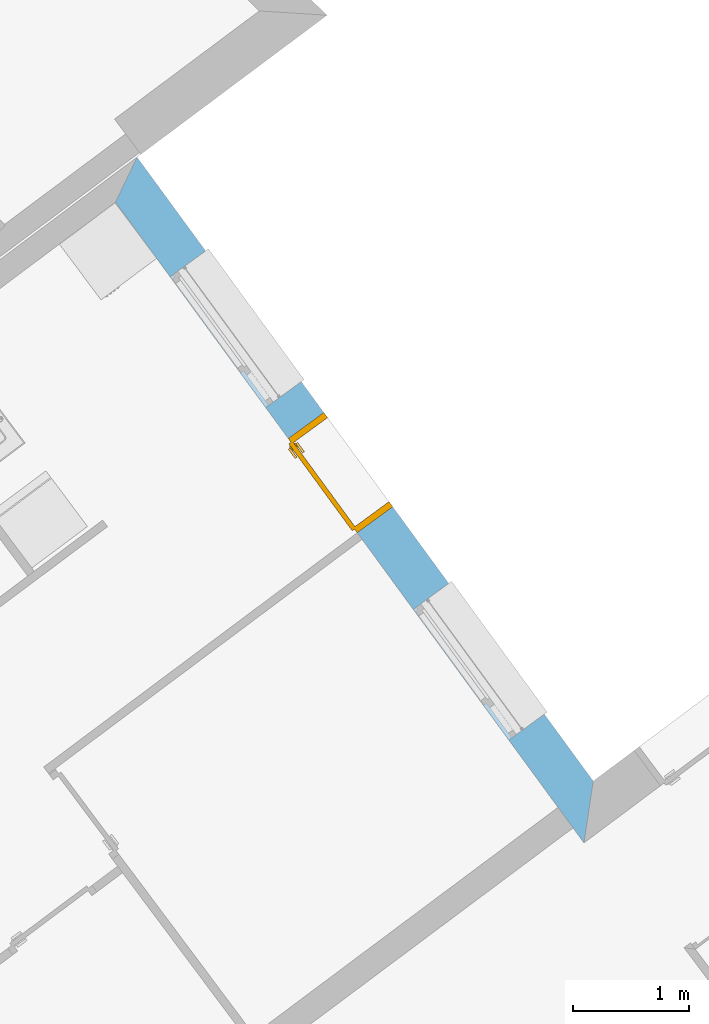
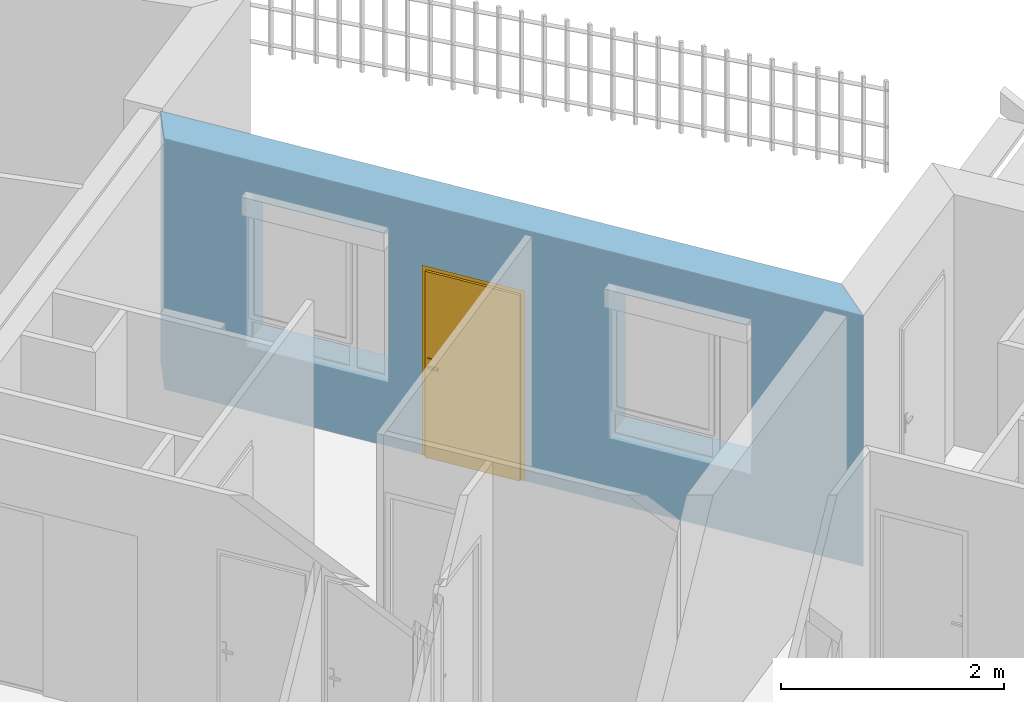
# One storey, part 13 of 195: 1 door, 3 openings, plus 1 element that does not belong to this part.
"""IFC2X3 building model written with IfcOpenShell, lengths in metres."""

import ifcopenshell
import ifcopenshell.guid

model = None  # the IFC model being written
_history = None  # IfcOwnerHistory: only IFC2X3 demands one
_inside = {}  # id of a spatial element -> (the spatial element, [elements in it])
_under = {}  # id of a project, library or spatial element -> (it, [spatial elements below it])
_declared = {}  # id of a project -> (the project, [libraries it declares])
_typed = {}  # id of a type object -> (the type object, [elements of that type])
_made_of = {}  # id of a material, layer set ... -> (it, [elements and type objects made of it])


def new_model(schema):
    """Start an empty IFC model of exactly this schema.

    Asked for "IFC4X3", IfcOpenShell would pick the latest addendum, in which some entities
    have other attributes; the version numbers below select the first issue.
    IFC2X3 requires an IfcOwnerHistory on every rooted entity: one is made here for all.
    """
    global model, _history
    if schema == "IFC4X3":
        model = ifcopenshell.file(schema_version=(4, 3, 0, 0))
    else:
        model = ifcopenshell.file(schema=schema)
    _inside.clear()
    _under.clear()
    _declared.clear()
    _typed.clear()
    _made_of.clear()
    _history = None
    if model.schema == "IFC2X3":
        org = make("IfcOrganization", Name="unknown")
        user = make(
            "IfcPersonAndOrganization",
            ThePerson=make("IfcPerson", FamilyName="unknown"),
            TheOrganization=org,
        )
        app = make(
            "IfcApplication",
            ApplicationDeveloper=org,
            Version="unknown",
            ApplicationFullName="unknown",
            ApplicationIdentifier="unknown",
        )
        _history = make(
            "IfcOwnerHistory",
            OwningUser=user,
            OwningApplication=app,
            ChangeAction="ADDED",
            CreationDate=0,
        )
    return model


def make(cls, **values):
    """One entity of the class cls with the attributes given. An attribute that is None is left unset."""
    return model.create_entity(
        cls, **{name: value for name, value in values.items() if value is not None}
    )


def entity(cls, *values):
    """Any entity or typed value of the class cls, its attributes in the order of the schema. None: left unset."""
    e = model.create_entity(cls)
    for i, value in enumerate(values):
        if value is not None:
            e[i] = value
    return e


def rooted(cls, **values):
    """An entity with a GlobalId (a new one), such as an element, a storey or a relation."""
    return make(cls, GlobalId=ifcopenshell.guid.new(), OwnerHistory=_history, **values)


def si_unit(unit_type, name, prefix=None):
    """IfcSIUnit, for example si_unit("LENGTHUNIT", "METRE", prefix="MILLI")."""
    return make("IfcSIUnit", UnitType=unit_type, Prefix=prefix, Name=name)


def converted_unit(unit_type, name, factor, base, dimensions=None, offset=None):
    """IfcConversionBasedUnit, such as the inch: factor (a typed value) times the base unit."""
    return make(
        "IfcConversionBasedUnit"
        if offset is None
        else "IfcConversionBasedUnitWithOffset",
        ConversionOffset=offset,
        Dimensions=None
        if dimensions is None
        else entity("IfcDimensionalExponents", *dimensions),
        UnitType=unit_type,
        Name=name,
        ConversionFactor=make(
            "IfcMeasureWithUnit", ValueComponent=factor, UnitComponent=base
        ),
    )


def derived_unit(unit_type, elements):
    """IfcDerivedUnit: a product of units, each with its exponent."""
    return make(
        "IfcDerivedUnit",
        Elements=[
            make("IfcDerivedUnitElement", Unit=unit, Exponent=power)
            for unit, power in elements
        ],
        UnitType=unit_type,
    )


def money_unit(currency):
    """IfcMonetaryUnit."""
    return make("IfcMonetaryUnit", Currency=currency)


def assignment(units):
    """IfcUnitAssignment: the units of a project."""
    return None if units is None else make("IfcUnitAssignment", Units=units)


def point(xyz):
    """IfcCartesianPoint."""
    return None if xyz is None else make("IfcCartesianPoint", Coordinates=xyz)


def direction(xyz):
    """IfcDirection."""
    return None if xyz is None else make("IfcDirection", DirectionRatios=xyz)


def frame(location, z_axis=None, x_axis=None):
    """IfcAxis2Placement3D, a coordinate frame: its origin and axes. An axis left out is left unset."""
    return make(
        "IfcAxis2Placement3D",
        Location=point(location),
        Axis=direction(z_axis),
        RefDirection=direction(x_axis),
    )


def frame_2d(location, x_axis=None):
    """IfcAxis2Placement2D, a coordinate frame in the plane: its origin and x axis."""
    return make(
        "IfcAxis2Placement2D", Location=point(location), RefDirection=direction(x_axis)
    )


def origin_with_axes():
    """The frame at (0, 0, 0) with the z axis (0, 0, 1) and the x axis (1, 0, 0) written out."""
    return frame((0.0, 0.0, 0.0), z_axis=(0.0, 0.0, 1.0), x_axis=(1.0, 0.0, 0.0))


def origin_2d_with_axis():
    """The frame at (0, 0) in the plane with the x axis (1, 0) written out."""
    return frame_2d((0.0, 0.0), x_axis=(1.0, 0.0))


def place(relative_to, where):
    """IfcLocalPlacement: puts the frame where relative to a parent placement (None: the world)."""
    return make(
        "IfcLocalPlacement", PlacementRelTo=relative_to, RelativePlacement=where
    )


def context(
    kind, dimensions, precision=None, world=None, true_north=None, identifier=None
):
    """IfcGeometricRepresentationContext, for example the 3D "Model" context."""
    return make(
        "IfcGeometricRepresentationContext",
        ContextIdentifier=identifier,
        ContextType=kind,
        CoordinateSpaceDimension=dimensions,
        Precision=precision,
        WorldCoordinateSystem=world,
        TrueNorth=true_north,
    )


def subcontext(parent, identifier, kind, view, scale=None):
    """IfcGeometricRepresentationSubContext, for example "Body" below "Model"."""
    return make(
        "IfcGeometricRepresentationSubContext",
        ContextIdentifier=identifier,
        ContextType=kind,
        ParentContext=parent,
        TargetScale=scale,
        TargetView=view,
    )


def project(units=None, contexts=None):
    """IfcProject with its units and contexts."""
    return rooted(
        "IfcProject",
        Name="project",
        RepresentationContexts=contexts,
        UnitsInContext=assignment(units),
    )


def spatial(cls, under=None, at=None, **own):
    """A site, building, storey or space (cls), placed at a placement, below another one or the project."""
    s = rooted(cls, ObjectPlacement=at, **own)
    if under is not None:
        _under.setdefault(under.id(), (under, []))[1].append(s)
    return s


def polyline(points):
    """IfcPolyline through the points."""
    return make("IfcPolyline", Points=[point(p) for p in points])


def profile(cls, at=None, kind="AREA", **sizes):
    """A parametric profile (cls). Its sizes go by their IFC names, for example OverallWidth=200.0."""
    return make(cls, ProfileType=kind, Position=at, **sizes)


def rectangle(**sizes):
    """IfcRectangleProfileDef."""
    return profile("IfcRectangleProfileDef", **sizes)


def outline(outer, holes=None, kind="AREA"):
    """IfcArbitraryClosedProfileDef: a profile drawn as a closed curve; with holes, ...WithVoids."""
    if holes is None:
        return make("IfcArbitraryClosedProfileDef", ProfileType=kind, OuterCurve=outer)
    return make(
        "IfcArbitraryProfileDefWithVoids",
        ProfileType=kind,
        OuterCurve=outer,
        InnerCurves=holes,
    )


def extrude(swept, where, along, depth):
    """IfcExtrudedAreaSolid: the profile swept, set in the frame where, extruded along a direction by depth."""
    return make(
        "IfcExtrudedAreaSolid",
        SweptArea=swept,
        Position=where,
        ExtrudedDirection=direction(along),
        Depth=depth,
    )


def faces_of(points, faces, orient=None, outer=None):
    """IfcFace entities. A face is a list of loops; a loop is a list of indices into points, from 0.

    orient and outer hold one flag for each loop. By default every Orientation is true, the
    first loop of a face is its IfcFaceOuterBound and the others are IfcFaceBound.
    """
    made = []
    for i, loops in enumerate(faces):
        bounds = []
        for j, loop in enumerate(loops):
            is_outer = j == 0 if outer is None else outer[i][j]
            bounds.append(
                make(
                    "IfcFaceOuterBound" if is_outer else "IfcFaceBound",
                    Bound=make("IfcPolyLoop", Polygon=[points[k] for k in loop]),
                    Orientation=True if orient is None else orient[i][j],
                )
            )
        made.append(make("IfcFace", Bounds=bounds))
    return made


def faceted_brep(points, faces, orient=None, outer=None, voids=None):
    """IfcFacetedBrep: a solid bounded by flat faces; with voids (closed shells), ...WithVoids."""
    shared = [point(p) for p in points]
    hull = make("IfcClosedShell", CfsFaces=faces_of(shared, faces, orient, outer))
    if voids is None:
        return make("IfcFacetedBrep", Outer=hull)
    return make(
        "IfcFacetedBrepWithVoids",
        Outer=hull,
        Voids=[
            make(cls, CfsFaces=faces_of(shared, fs, o, b)) for cls, fs, o, b in voids
        ],
    )


def shape(context_of_items, identifier, shape_type, items):
    """IfcShapeRepresentation: the items that make up one representation, for example the "Body"."""
    return make(
        "IfcShapeRepresentation",
        ContextOfItems=context_of_items,
        RepresentationIdentifier=identifier,
        RepresentationType=shape_type,
        Items=items,
    )


def source(mapping_origin, context_of_items, identifier, shape_type, items):
    """IfcRepresentationMap: a shape defined once, which mapped items show again and again."""
    return make(
        "IfcRepresentationMap",
        MappingOrigin=mapping_origin,
        MappedRepresentation=shape(context_of_items, identifier, shape_type, items),
    )


def transform(
    local_origin,
    x_axis=None,
    y_axis=None,
    z_axis=None,
    scale=None,
    scale2=None,
    scale3=None,
    uniform=True,
):
    """IfcCartesianTransformationOperator3D, or its non-uniform kind. x_axis, y_axis, z_axis: its Axis1, 2, 3."""
    if uniform:
        return make(
            "IfcCartesianTransformationOperator3D",
            Axis1=direction(x_axis),
            Axis2=direction(y_axis),
            LocalOrigin=point(local_origin),
            Scale=scale,
            Axis3=direction(z_axis),
        )
    return make(
        "IfcCartesianTransformationOperator3DnonUniform",
        Axis1=direction(x_axis),
        Axis2=direction(y_axis),
        LocalOrigin=point(local_origin),
        Scale=scale,
        Axis3=direction(z_axis),
        Scale2=scale2,
        Scale3=scale3,
    )


def mapped(mapping_source, mapping_target):
    """IfcMappedItem: shows the shape of a source again, moved by a transform."""
    return make(
        "IfcMappedItem", MappingSource=mapping_source, MappingTarget=mapping_target
    )


def material(Name=None, Category=None):
    """IfcMaterial."""
    return make("IfcMaterial", Name=Name, Category=Category)


def layer(
    of_material, thickness, ventilated=None, Name=None, Category=None, Priority=None
):
    """IfcMaterialLayer: one layer of a wall or slab, of a material (None: an air gap)."""
    return make(
        "IfcMaterialLayer",
        Material=of_material,
        LayerThickness=thickness,
        IsVentilated=ventilated,
        Name=Name,
        Category=Category,
        Priority=Priority,
    )


def layer_set(layers, Name=None):
    """IfcMaterialLayerSet."""
    return make("IfcMaterialLayerSet", MaterialLayers=layers, LayerSetName=Name)


def layer_usage(for_layer_set, set_direction, sense, offset, extent=None):
    """IfcMaterialLayerSetUsage: how a layer set lies in its element."""
    return make(
        "IfcMaterialLayerSetUsage",
        ForLayerSet=for_layer_set,
        LayerSetDirection=set_direction,
        DirectionSense=sense,
        OffsetFromReferenceLine=offset,
        ReferenceExtent=extent,
    )


def made_of(thing, what):
    """Note that an element or type object is made of a material, layer set ...; save() writes the relation."""
    if what is not None:
        _made_of.setdefault(what.id(), (what, []))[1].append(thing)
    return thing


def type_object(cls, material=None, **own):
    """A type object (cls), such as IfcWallType, which elements share."""
    return made_of(rooted(cls, **own), material)


def element(
    cls,
    number,
    at=None,
    inside=None,
    cuts=None,
    type_object=None,
    material=None,
    context=None,
    identifier="Body",
    shape_type=None,
    held_by="IfcProductDefinitionShape",
    body=None,
    shapes=None,
    **own,
):
    """One element of the class cls, such as IfcWall. Its Tag is "e" and its number.

    at: its placement. inside: the storey or other place that contains it. cuts: it is an
    opening in that element (IfcRelVoidsElement). A single representation is given by context,
    identifier, shape_type and body (its items); several are given by shapes. held_by: the class
    of the entity that holds the representations. save() writes the other relations.
    """
    e = rooted(cls, Tag="e%d" % number, ObjectPlacement=at, **own)
    if body is not None:
        shapes = [shape(context, identifier, shape_type, body)]
    if shapes is not None:
        e.Representation = make(held_by, Representations=shapes)
    if inside is not None:
        _inside.setdefault(inside.id(), (inside, []))[1].append(e)
    if cuts is not None:
        rooted(
            "IfcRelVoidsElement", RelatingBuildingElement=cuts, RelatedOpeningElement=e
        )
    if type_object is not None:
        _typed.setdefault(type_object.id(), (type_object, []))[1].append(e)
    return made_of(e, material)


def fill(opening, filler):
    """IfcRelFillsElement: the door or window that sits in an opening."""
    return rooted(
        "IfcRelFillsElement",
        RelatingOpeningElement=opening,
        RelatedBuildingElement=filler,
    )


def aggregate(whole, parts):
    """IfcRelAggregates: a whole, such as a stair, and the parts it consists of."""
    return rooted("IfcRelAggregates", RelatingObject=whole, RelatedObjects=parts)


def save(model, path):
    """Write the relations noted so far, then the file.

    IfcRelAggregates (storeys below a building ...), IfcRelContainedInSpatialStructure (elements
    in a storey), IfcRelDefinesByType, IfcRelAssociatesMaterial and IfcRelDeclares: one each for
    every whole, place, type object, material and project.
    """
    for whole, parts in _under.values():
        aggregate(whole, parts)
    for where, things in _inside.values():
        rooted(
            "IfcRelContainedInSpatialStructure",
            RelatedElements=things,
            RelatingStructure=where,
        )
    for kind, things in _typed.values():
        rooted("IfcRelDefinesByType", RelatedObjects=things, RelatingType=kind)
    for what, things in _made_of.values():
        rooted("IfcRelAssociatesMaterial", RelatedObjects=things, RelatingMaterial=what)
    for by, libraries in _declared.values():
        rooted("IfcRelDeclares", RelatingContext=by, RelatedDefinitions=libraries)
    model.write(path)


model = new_model("IFC2X3")

# Units and contexts
model_context = context("Model", 3, precision=1e-05, world=origin_with_axes(), true_north=direction((0.0, 1.0)))
body_context = subcontext(model_context, "Body", "Model", "MODEL_VIEW")
ifc_project = project(units=[si_unit("LENGTHUNIT", "METRE"), si_unit("AREAUNIT", "SQUARE_METRE"), si_unit("VOLUMEUNIT", "CUBIC_METRE"), converted_unit("PLANEANGLEUNIT", "DEGREE", entity("IfcPlaneAngleMeasure", 0.0174532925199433), si_unit("PLANEANGLEUNIT", "RADIAN"), dimensions=[0, 0, 0, 0, 0, 0, 0]), money_unit("CHF"), converted_unit("TIMEUNIT", "Year", entity("IfcTimeMeasure", 31557600.0), si_unit("TIMEUNIT", "SECOND"), dimensions=[0, 0, 1, 0, 0, 0, 0]), si_unit("MASSUNIT", "GRAM", prefix="KILO"), si_unit("THERMODYNAMICTEMPERATUREUNIT", "DEGREE_CELSIUS"), si_unit("LUMINOUSINTENSITYUNIT", "LUMEN"), si_unit("ENERGYUNIT", "JOULE", prefix="MEGA"), derived_unit("THERMALCONDUCTANCEUNIT", [(si_unit("POWERUNIT", "WATT"), 1), (si_unit("LENGTHUNIT", "METRE"), -1), (si_unit("THERMODYNAMICTEMPERATUREUNIT", "KELVIN"), -1)]), derived_unit("SPECIFICHEATCAPACITYUNIT", [(si_unit("ENERGYUNIT", "JOULE"), 1), (si_unit("MASSUNIT", "GRAM", prefix="KILO"), -1), (si_unit("THERMODYNAMICTEMPERATUREUNIT", "KELVIN"), -1)]), derived_unit("MASSDENSITYUNIT", [(si_unit("MASSUNIT", "GRAM", prefix="KILO"), 1), (si_unit("VOLUMEUNIT", "CUBIC_METRE"), -1)])], contexts=[model_context])

# Site, building, storey
site_placement = place(None, origin_with_axes())
site = spatial("IfcSite", under=ifc_project, at=site_placement, Name="Site", CompositionType="ELEMENT")
building_placement = place(site_placement, origin_with_axes())
building = spatial("IfcBuilding", under=site, at=building_placement, Name="Bâtiment", CompositionType="ELEMENT")
storey_placement = place(building_placement, origin_with_axes())
storey = spatial("IfcBuildingStorey", under=building, at=storey_placement, Name="rdc", CompositionType="ELEMENT", Elevation=0.0)

# Wall, openings, door
ifc_material_1 = material(Name="Parpaing 312445824")
ifc_layer_1 = layer(ifc_material_1, 0.22, ventilated="UNKNOWN")
ifc_material_2 = material(Name="Isolant styromousse 301821074")
ifc_layer_2 = layer(ifc_material_2, 0.16, ventilated="UNKNOWN")
ifc_layer_set = layer_set([ifc_layer_1, ifc_layer_2], Name="isol int 22+16 0836643197")
ifc_layer_usage = layer_usage(ifc_layer_set, "AXIS2", "POSITIVE", 0.0)
wall_type = type_object("IfcWallType", Name="isol int 22+16 0836643197 380", PredefinedType="NOTDEFINED")
wall_placement = place(storey_placement, frame((9541.451386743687, -1075.117736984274, 57.7), z_axis=(0.0, 0.0, 1.0), x_axis=(-0.5902012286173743, 0.8072561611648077, 0.0)))
wall = element("IfcWallStandardCase", 1, at=wall_placement, inside=storey, type_object=wall_type, material=ifc_layer_usage, Name="Mur-113", context=body_context, shape_type="SweptSolid", body=[
    extrude(outline(polyline([(0.0, 0.0), (6.680351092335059, 0.0), (6.476444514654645, 0.3800000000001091), (-0.3839160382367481, 0.3800000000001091), (0.0, 0.0)])), origin_with_axes(), (0.0, 0.0, 1.0), 2.75),
])
opening_1_placement = place(wall_placement, frame((4.976733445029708, 0.0, 0.7000000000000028), z_axis=(0.0, 0.0, 1.0), x_axis=(1.0, 0.0, 0.0)))
element("IfcOpeningElement", 2, at=opening_1_placement, cuts=wall, Name="Fen-045", context=body_context, shape_type="Brep", body=[
    faceted_brep([(0.7000000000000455, 0.2199999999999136, 1.5), (-0.6999999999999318, 0.2200000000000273, 1.5), (-0.7000000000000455, -3.183810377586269, 1.5), (0.6999999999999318, -3.183810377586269, 1.5), (0.7000000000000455, 0.2199999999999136, 1.700000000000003), (-0.6999999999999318, 0.2200000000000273, 1.700000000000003), (-0.6999999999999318, 0.3000000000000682, 1.5), (-0.6999999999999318, 0.3000000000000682, 0.0), (-0.7000000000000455, -3.183810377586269, 0.0), (0.6999999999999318, -3.183810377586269, 0.0), (0.7000000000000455, 0.3000000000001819, 1.5), (0.7000000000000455, 0.3000000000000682, 0.0), (0.6999999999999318, 0.4800000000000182, 1.5), (0.6999999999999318, 0.4800000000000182, 1.700000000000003), (-0.7000000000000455, 0.4799999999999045, 1.700000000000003), (-0.7000000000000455, 0.4799999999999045, 1.5), (-0.7000000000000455, 3.563810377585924, 1.5), (-0.7000000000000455, 3.563810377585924, 0.0), (0.7000000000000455, 3.563810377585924, 0.0), (0.7000000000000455, 3.563810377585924, 1.5)], [[[0, 1, 2, 3]], [[1, 0, 4, 5]], [[1, 6, 7, 8, 2]], [[2, 8, 9, 3]], [[10, 0, 3, 9, 11]], [[0, 10, 12, 13, 4]], [[14, 5, 4, 13]], [[6, 1, 5, 14, 15]], [[6, 15, 16, 17, 7]], [[11, 9, 8, 7, 17, 18]], [[12, 10, 11, 18, 19]], [[12, 15, 14, 13]], [[15, 12, 19, 16]], [[19, 18, 17, 16]]]),
])
opening_2_placement = place(wall_placement, frame((1.416247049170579, 0.0, 0.7000000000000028), z_axis=(0.0, 0.0, 1.0), x_axis=(1.0, 0.0, 0.0)))
element("IfcOpeningElement", 3, at=opening_2_placement, cuts=wall, Name="Fen-045", context=body_context, shape_type="Brep", body=[
    faceted_brep([(0.6999999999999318, 0.220000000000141, 1.5), (-0.7000000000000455, 0.220000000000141, 1.5), (-0.7000000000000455, -3.183810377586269, 1.5), (0.6999999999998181, -3.183810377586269, 1.5), (0.6999999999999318, 0.220000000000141, 1.700000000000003), (-0.7000000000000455, 0.220000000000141, 1.700000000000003), (-0.7000000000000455, 0.3000000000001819, 1.5), (-0.7000000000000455, 0.3000000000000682, 0.0), (-0.7000000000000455, -3.183810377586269, 0.0), (0.6999999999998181, -3.183810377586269, 0.0), (0.6999999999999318, 0.3000000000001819, 1.5), (0.7000000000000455, 0.3000000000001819, 0.0), (0.6999999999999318, 0.4800000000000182, 1.5), (0.6999999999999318, 0.4800000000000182, 1.700000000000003), (-0.7000000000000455, 0.4800000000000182, 1.700000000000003), (-0.7000000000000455, 0.4800000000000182, 1.5), (-0.7000000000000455, 3.563810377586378, 1.5), (-0.7000000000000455, 3.563810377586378, 0.0), (0.7000000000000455, 3.563810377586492, 0.0), (0.7000000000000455, 3.563810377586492, 1.5)], [[[0, 1, 2, 3]], [[1, 0, 4, 5]], [[1, 6, 7, 8, 2]], [[2, 8, 9, 3]], [[10, 0, 3, 9, 11]], [[0, 10, 12, 13, 4]], [[14, 5, 4, 13]], [[6, 1, 5, 14, 15]], [[6, 15, 16, 17, 7]], [[11, 9, 8, 7, 17, 18]], [[12, 10, 11, 18, 19]], [[12, 15, 14, 13]], [[15, 12, 19, 16]], [[19, 18, 17, 16]]]),
])
opening_3_placement = place(wall_placement, frame((3.44115834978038, 0.0, 0.0), z_axis=(0.0, 0.0, 1.0), x_axis=(1.0, 0.0, 0.0)))
opening_3 = element("IfcOpeningElement", 4, at=opening_3_placement, cuts=wall, Name="Por-303", context=body_context, shape_type="SweptSolid", body=[
    extrude(rectangle(XDim=1.01000001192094, YDim=2.079999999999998, at=origin_2d_with_axis()), frame((-5.960600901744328e-09, -0.3799999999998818, 1.039999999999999), z_axis=(0.0, -1.0, 0.0), x_axis=(-1.0, 0.0, 0.0)), (0.0, 0.0, -1.0), 0.76),
])
door_style = type_object("IfcDoorStyle", Name="Porte_1v", ConstructionType="NOTDEFINED", OperationType="NOTDEFINED", ParameterTakesPrecedence=False, Sizeable=False)
shared_shape = source(origin_with_axes(), body_context, "Body", "Brep", [
    faceted_brep([(-0.505, 0.0, 0.0), (-0.505, 0.0, 2.08), (0.505, 0.0, 2.08), (0.505, 0.0, 0.0), (0.465, 0.0, 0.0), (0.465, 0.0, 2.04), (-0.465, 0.0, 2.04), (-0.465, 0.0, 0.0), (-0.505, -0.38, 0.0), (-0.505, -0.38, 2.08), (0.505, -0.38, 2.08), (0.505, -0.38, 0.0), (0.45, -0.38, 0.0), (0.45, -0.015, 0.0), (0.465, -0.015, 0.0), (0.465, -0.015, 2.04), (-0.465, -0.015, 2.04), (-0.465, -0.015, 0.0), (-0.45, -0.015, 0.0), (-0.45, -0.38, 0.0), (-0.45, -0.38, 2.025), (0.45, -0.38, 2.025), (0.45, -0.015, 2.025), (-0.45, -0.015, 2.025)], [[[0, 1, 2, 3, 4, 5, 6, 7]], [[8, 9, 1, 0]], [[9, 10, 2, 1]], [[10, 11, 3, 2]], [[3, 11, 12, 13, 14, 4]], [[5, 4, 14, 15]], [[6, 5, 15, 16]], [[7, 6, 16, 17]], [[0, 7, 17, 18, 19, 8]], [[19, 20, 21, 12, 11, 10, 9, 8]], [[22, 13, 12, 21]], [[17, 16, 15, 14, 13, 22, 23, 18]], [[18, 23, 20, 19]], [[23, 22, 21, 20]]]),
    faceted_brep([(0.4, -0.015, 0.9), (0.4, -0.015, 1.1), (0.44, -0.015, 1.1), (0.44, -0.015, 0.9), (0.4, -0.025, 0.9), (0.4, -0.025, 1.1), (0.44, -0.025, 1.1), (0.44, -0.025, 0.9)], [[[0, 1, 2, 3]], [[0, 4, 5, 1]], [[1, 5, 6, 2]], [[2, 6, 7, 3]], [[3, 7, 4, 0]], [[7, 6, 5, 4]]]),
    faceted_brep([(0.33, -0.025, 1.0), (0.33, -0.025, 1.02), (0.43, -0.025, 1.02), (0.43, -0.025, 1.0), (0.33, -0.045, 1.0), (0.33, -0.045, 1.02), (0.43, -0.045, 1.02), (0.43, -0.045, 1.0)], [[[0, 1, 2, 3]], [[0, 4, 5, 1]], [[1, 5, 6, 2]], [[2, 6, 7, 3]], [[3, 7, 4, 0]], [[7, 6, 5, 4]]]),
    faceted_brep([(0.4, 0.035, 0.9), (0.4, 0.035, 1.1), (0.44, 0.035, 1.1), (0.44, 0.035, 0.9), (0.4, 0.025, 0.9), (0.4, 0.025, 1.1), (0.44, 0.025, 1.1), (0.44, 0.025, 0.9)], [[[0, 1, 2, 3]], [[0, 4, 5, 1]], [[1, 5, 6, 2]], [[2, 6, 7, 3]], [[3, 7, 4, 0]], [[7, 6, 5, 4]]]),
    faceted_brep([(0.33, 0.05500000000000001, 1.0), (0.33, 0.05500000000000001, 1.02), (0.43, 0.05500000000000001, 1.02), (0.43, 0.05500000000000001, 1.0), (0.33, 0.035, 1.0), (0.33, 0.035, 1.02), (0.43, 0.035, 1.02), (0.43, 0.035, 1.0)], [[[0, 1, 2, 3]], [[0, 4, 5, 1]], [[1, 5, 6, 2]], [[2, 6, 7, 3]], [[3, 7, 4, 0]], [[7, 6, 5, 4]]]),
    faceted_brep([(0.465, 0.025, 0.0), (0.465, -0.015, 0.0), (-0.465, -0.015, 0.0), (-0.465, 0.025, 0.0), (0.465, 0.025, 2.04), (0.465, -0.015, 2.04), (-0.465, -0.015, 2.04), (-0.465, 0.025, 2.04)], [[[0, 1, 2, 3]], [[4, 5, 1, 0]], [[1, 5, 6, 2]], [[3, 2, 6, 7]], [[0, 3, 7, 4]], [[7, 6, 5, 4]]]),
])
door_placement = place(opening_3_placement, frame((-0.4650000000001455, 0.0, 0.0), z_axis=(0.0, 0.0, 1.0), x_axis=(1.0, 0.0, 0.0)))
door = element("IfcDoor", 5, at=door_placement, inside=storey, type_object=door_style, Name="Por-303", OverallHeight=2.04, OverallWidth=0.93, context=body_context, shape_type="MappedRepresentation", body=[
    mapped(shared_shape, transform((0.4650000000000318, 0.3799999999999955, 0.0))),
])
fill(opening_3, door)

save(model, "model.ifc")
